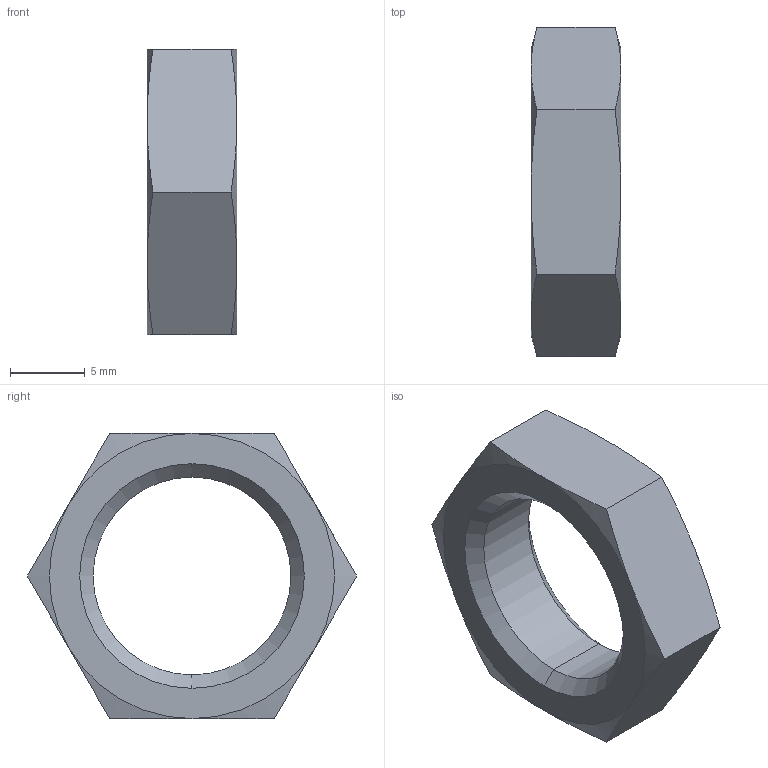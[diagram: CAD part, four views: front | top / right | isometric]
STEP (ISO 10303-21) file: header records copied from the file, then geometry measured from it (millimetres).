
FILE_DESCRIPTION (( 'STEP AP203' ), '1' );
FILE_NAME ('DNN06 SS.STEP', '2009-09-08T08:22:49', ( ' ' ), ( '' ), 'SwSTEP 2.0', 'SolidWorks 2008', '' );
FILE_SCHEMA (( 'CONFIG_CONTROL_DESIGN' ));
Length unit declared in the file: millimetre
Products named in the file (1): DNN06 SS
Bounding box: 6 x 22 x 19.05 mm (x, y, z)
Volume: 1021.8 mm3; surface area: 942.2 mm2
Topology: 1 solids, 1 shells, 26 faces, 56 edges, 32 vertices
Faces by surface type: cone 16, plane 8, cylinder 2
Entity records: 845 total; most frequent: CARTESIAN_POINT 235, ORIENTED_EDGE 112, DIRECTION 106, EDGE_CURVE 56, AXIS2_PLACEMENT_3D 47, VERTEX_POINT 32, EDGE_LOOP 28, ADVANCED_FACE 26
